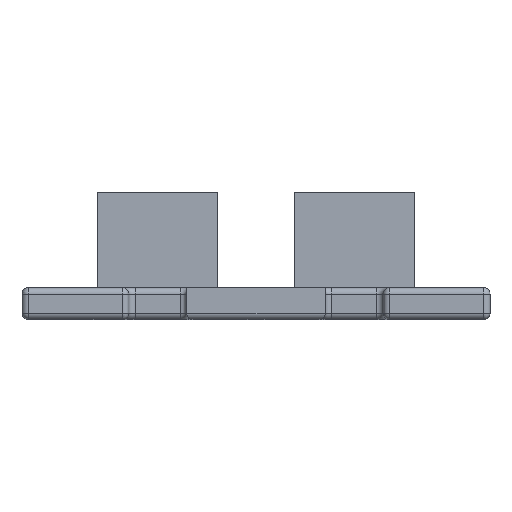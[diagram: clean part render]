
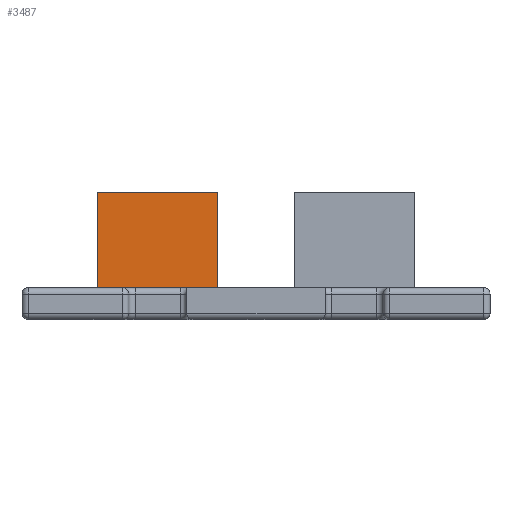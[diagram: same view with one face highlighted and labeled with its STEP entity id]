
A CAD part, left-side view. The second image highlights one B-rep face of the part: STEP entity #3487.
In plain terms, the highlighted planar face has unit normal (-1, 0, 0).
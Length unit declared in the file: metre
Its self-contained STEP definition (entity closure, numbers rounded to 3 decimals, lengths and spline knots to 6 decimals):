
#244=LINE('',#5152,#504);
#461=LINE('',#6112,#721);
#464=LINE('',#6118,#724);
#465=LINE('',#6119,#725);
#504=VECTOR('',#4003,1.);
#721=VECTOR('',#5008,1.);
#724=VECTOR('',#5013,1.);
#725=VECTOR('',#5014,1.);
#1670=ORIENTED_EDGE('',*,*,#2194,.F.);
#1671=ORIENTED_EDGE('',*,*,#1760,.F.);
#1672=ORIENTED_EDGE('',*,*,#2195,.T.);
#1673=ORIENTED_EDGE('',*,*,#2191,.T.);
#1760=EDGE_CURVE('',#2252,#2253,#244,.T.);
#2191=EDGE_CURVE('',#2492,#2490,#461,.T.);
#2194=EDGE_CURVE('',#2253,#2490,#464,.T.);
#2195=EDGE_CURVE('',#2252,#2492,#465,.T.);
#2252=VERTEX_POINT('',#5151);
#2253=VERTEX_POINT('',#5153);
#2490=VERTEX_POINT('',#6110);
#2492=VERTEX_POINT('',#6113);
#2929=EDGE_LOOP('',(#1670,#1671,#1672,#1673));
#3195=FACE_BOUND('',#2929,.T.);
#3271=PLANE('',#3924);
#3487=ADVANCED_FACE('',(#3195),#3271,.T.);
#3924=AXIS2_PLACEMENT_3D('',#6117,#5011,#5012);
#4003=DIRECTION('',(0.,1.,0.));
#5008=DIRECTION('',(0.,1.,0.));
#5011=DIRECTION('',(-1.,0.,0.));
#5012=DIRECTION('',(0.,0.,1.));
#5013=DIRECTION('',(0.,0.,1.));
#5014=DIRECTION('',(0.,0.,1.));
#5151=CARTESIAN_POINT('',(-0.004719,0.006,0.005));
#5152=CARTESIAN_POINT('',(-0.004719,0.,0.005));
#5153=CARTESIAN_POINT('',(-0.004705,0.025,0.005));
#6110=CARTESIAN_POINT('',(-0.004719,0.025,0.02));
#6112=CARTESIAN_POINT('',(-0.004719,0.006,0.02));
#6113=CARTESIAN_POINT('',(-0.004719,0.006,0.02));
#6117=CARTESIAN_POINT('',(-0.004719,0.006,0.0125));
#6118=CARTESIAN_POINT('',(-0.004719,0.025,0.0125));
#6119=CARTESIAN_POINT('',(-0.004719,0.006,0.0125));
